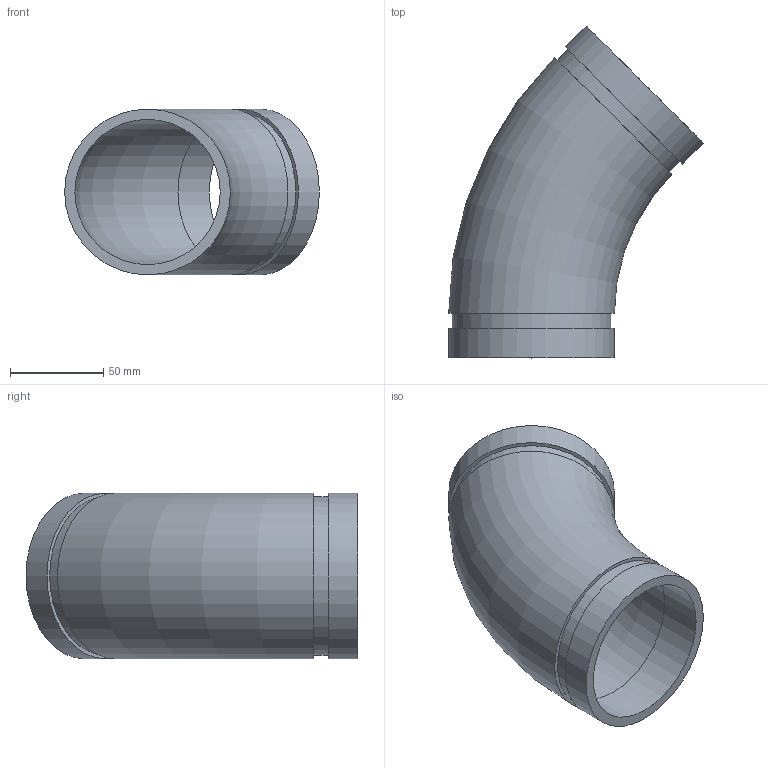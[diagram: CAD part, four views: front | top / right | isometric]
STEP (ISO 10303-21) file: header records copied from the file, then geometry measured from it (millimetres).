
FILE_DESCRIPTION(/* description */ ('VIC SS ELBOW 45 DEG No 411DX (OGS)'),/* implementation_level */ '2;1');
FILE_NAME(/* name */ 'C:\Files for Export\SS Duplex\STEP\Victaulic_SS-OGS_Elb 45 Deg_No 411DX (OGS)\Victaulic_SS-OGS_Elb 45 Deg_No 411DX (OGS)_3 (80).stp',/* time_stamp */ '2024-08-28T10:36:14+02:00',/* author */ ('CORINNE GRAY'),/* organization */ ('Victaulic'),/* preprocessor_version */ 'ST-DEVELOPER v18.1',/* originating_system */ 'Autodesk Inventor 2020',/* authorisation */ '');
FILE_SCHEMA (('AUTOMOTIVE_DESIGN { 1 0 10303 214 3 1 1 }'));
Length unit declared in the file: inch
Products named in the file (1): 411DX-03.0
Bounding box: 136.59 x 177.99 x 88.9 mm (x, y, z)
Volume: 228996.4 mm3; surface area: 91455.1 mm2
Topology: 1 solids, 1 shells, 14 faces, 26 edges, 18 vertices
Faces by surface type: plane 6, cylinder 6, torus 2
Full cylindrical faces by diameter (mm): 77.927 x2, 84.938 x2, 88.9 x2
Entity records: 427 total; most frequent: DIRECTION 76, CARTESIAN_POINT 59, ORIENTED_EDGE 52, AXIS2_PLACEMENT_3D 35, EDGE_CURVE 26, EDGE_LOOP 20, CIRCLE 20, VERTEX_POINT 18
